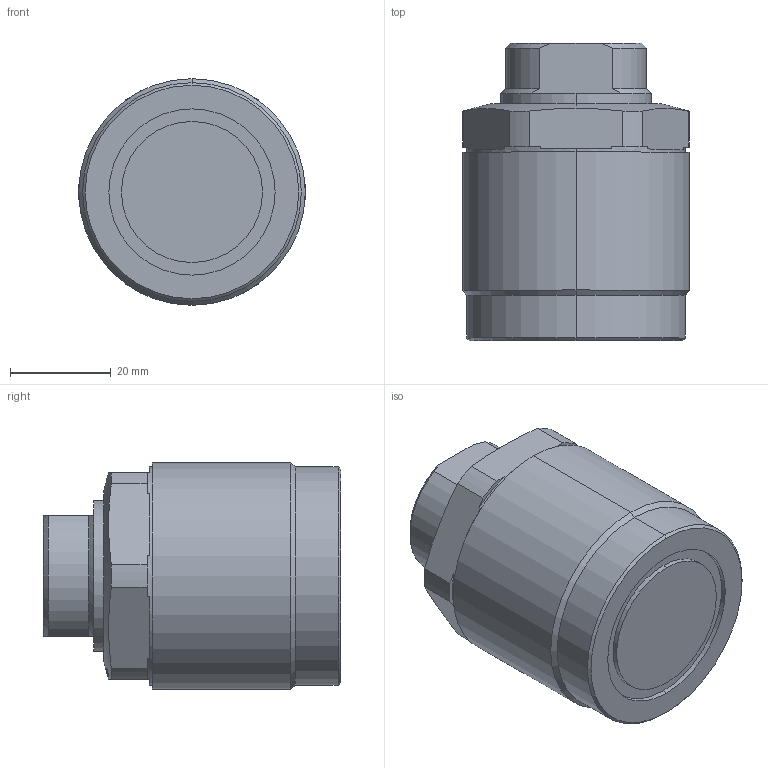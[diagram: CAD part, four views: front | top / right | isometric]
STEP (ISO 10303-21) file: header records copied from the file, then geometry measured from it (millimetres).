
FILE_DESCRIPTION (( 'STEP AP203' ), '1' );
FILE_NAME ('T03C-M455-S threaded pusher.STEP', '2022-07-09T17:44:29', ( '' ), ( '' ), 'SwSTEP 2.0', 'SolidWorks 2017', '' );
FILE_SCHEMA (( 'CONFIG_CONTROL_DESIGN' ));
Length unit declared in the file: millimetre
Products named in the file (3): T03C-M455-S part-2; T03C-M455-S threaded pusher; T03C-M455-S part-1
Assembly tree (2 placements, depth 2):
  T03C-M455-S threaded pusher
    T03C-M455-S part-1
    T03C-M455-S part-2
Bounding box: 45 x 59 x 45 mm (x, y, z)
Volume: 100737.3 mm3; surface area: 15584.9 mm2
Topology: 2 solids, 2 shells, 266 faces, 708 edges, 467 vertices
Faces by surface type: plane 137, bspline 93, cylinder 22, cone 14
Entity records: 13173 total; most frequent: CARTESIAN_POINT 6993, ORIENTED_EDGE 1412, DIRECTION 863, EDGE_CURVE 706, VERTEX_POINT 467, LINE 375, VECTOR 375, EDGE_LOOP 289
